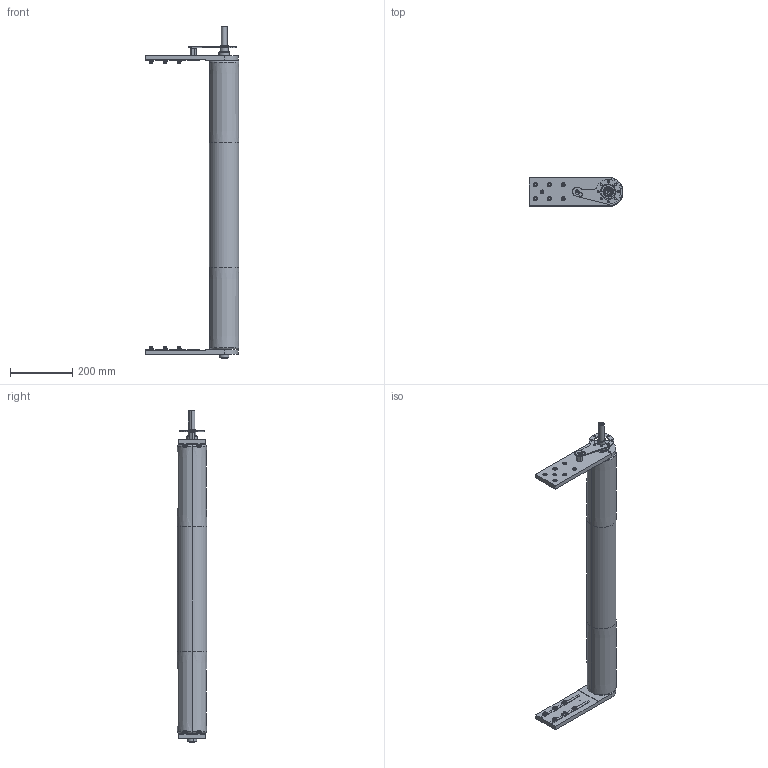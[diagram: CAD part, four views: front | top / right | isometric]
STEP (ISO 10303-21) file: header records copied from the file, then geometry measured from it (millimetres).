
FILE_DESCRIPTION (( 'STEP AP203' ), '1' );
FILE_NAME ('084.095.KD.44.900.STEP', '2015-11-12T09:59:10', ( '' ), ( '' ), 'SwSTEP 2.0', 'SolidWorks 2012', '' );
FILE_SCHEMA (( 'CONFIG_CONTROL_DESIGN' ));
Length unit declared in the file: millimetre
Products named in the file (1): 084.095.KD.44.900
Bounding box: 302.5 x 95 x 1068.5 mm (x, y, z)
Surface area: 464910.6 mm2 (no closed solid volume)
Topology: 0 solids, 53 shells, 512 faces, 1615 edges, 1128 vertices
Faces by surface type: plane 286, cylinder 132, torus 52, cone 38, bspline 4
Entity records: 18990 total; most frequent: CARTESIAN_POINT 4612, DIRECTION 3041, ORIENTED_EDGE 2654, EDGE_CURVE 1615, VERTEX_POINT 1128, AXIS2_PLACEMENT_3D 1109, VECTOR 823, LINE 823
